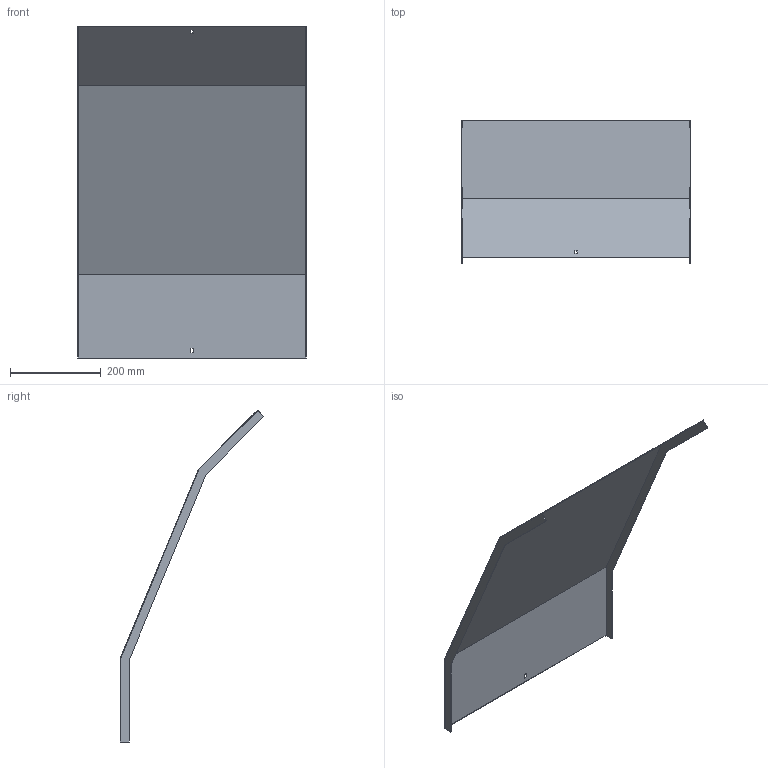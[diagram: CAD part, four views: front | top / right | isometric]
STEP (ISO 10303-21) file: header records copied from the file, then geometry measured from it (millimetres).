
FILE_DESCRIPTION (( 'STEP AP214' ), '1' );
FILE_NAME ('34N5F500.step', '2025-02-21T14:24:48', ( '' ), ( '' ), 'SwSTEP 2.0', 'SolidWorks 2023', '' );
FILE_SCHEMA (( 'AUTOMOTIVE_DESIGN' ));
Length unit declared in the file: millimetre
Products named in the file (1): 34N5F500
Bounding box: 503 x 316.43 x 729.78 mm (x, y, z)
Volume: 661409.1 mm3; surface area: 885999.6 mm2
Topology: 1 solids, 1 shells, 26 faces, 72 edges, 48 vertices
Faces by surface type: plane 26
Entity records: 847 total; most frequent: CARTESIAN_POINT 147, ORIENTED_EDGE 144, DIRECTION 126, LINE 72, VECTOR 72, EDGE_CURVE 72, VERTEX_POINT 48, EDGE_LOOP 30
